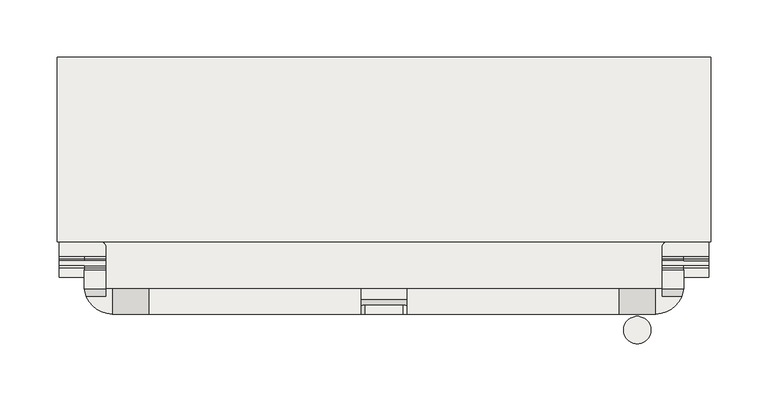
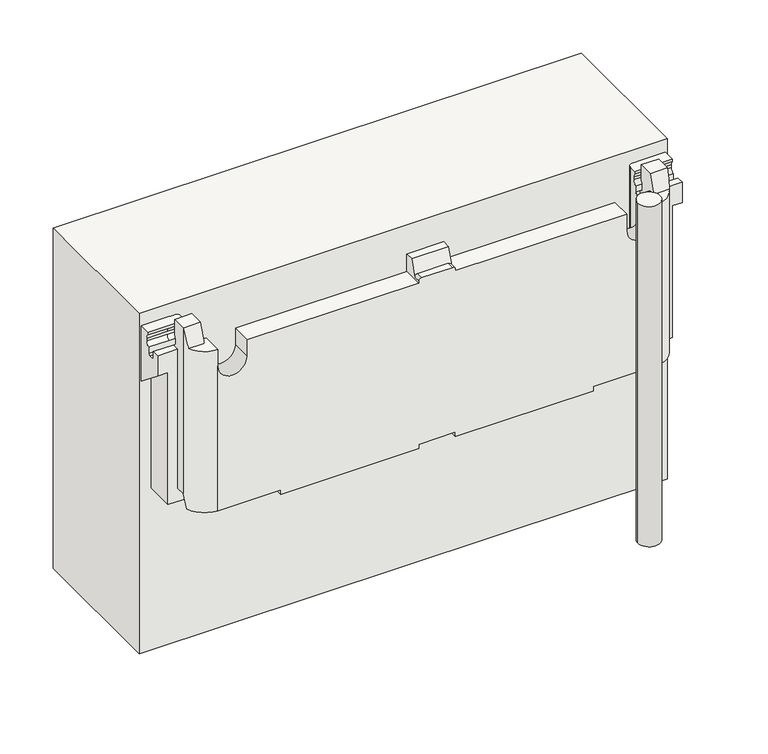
"""IFC4 building model written with IfcOpenShell, lengths in millimetres: covering geometry, panel VP Modulo prova ultima texture : panel VP Modulo prova ultima texture."""

from ifc_helpers import new_model, si_unit, point, frame, frame_2d, origin, origin_with_axes, place, context, project, spatial, polyline, circle_curve, ellipse_curve, trimmed, segment, composite_curve, outline, extrude, source, transform, mapped, element, save
from ifc_brep_helpers import plane_surface, cylinder_surface, revolved_surface, advanced_brep


def covering_16bc3edb(model_context):
    return source(origin(), model_context, "Body", "SolidModel", [
        advanced_brep(
        [(-20.0, 40.503817, 390.3791993), (-20.0, 49.5015434, 390.3791993), (-20.0, 49.5015434, 370.3821425), (-20.0, 27.5015432, 370.3821425), (-20.0, 27.5015432, 372.3821424), (-20.0, 34.5021229, 372.3821424), (20.0, 49.5015434, 390.3791993), (20.0, 40.503817, 390.3791993), (20.0, 34.5021229, 372.3821424), (20.0, 27.5015432, 372.3821424), (20.0, 27.5015432, 370.3821425), (20.0, 49.5015434, 370.3821425), (-17.0, 35.5025688, 375.3821424), (17.0, 35.5025688, 375.3821424), (17.0, 27.5015432, 375.3821424), (-17.0, 27.5015432, 375.3821424), (-262.4808119, 49.5015434, 390.3770182), (-262.4808119, 65.772467, 390.3770182), (-262.4808119, 65.772467, 372.4339741), (-262.4808119, 63.7739273, 367.538463), (-262.4808119, 63.7739273, 364.538463), (-262.4808119, 67.7745502, 359.8422632), (-262.4808119, 59.5, 359.8422632), (-262.4808119, 59.5, 200.3778557), (-262.4808119, 49.5015434, 200.3778557), (262.4808119, 67.7745502, 359.8422632), (262.4808119, 63.7739273, 364.538463), (262.4808119, 63.7739273, 367.538463), (262.4808119, 65.772467, 372.4339741), (262.4808119, 65.772467, 390.3770182), (262.4808119, 49.5015434, 390.3770182), (262.4808119, 49.5015434, 200.3778557), (262.4808119, 59.5, 200.3778557), (262.4808119, 59.5, 359.8422632), (205.7808119, 27.5015432, 370.3821425), (205.7808119, 49.5015434, 370.3821425), (243.7808119, 42.6167555, 370.3821425), (243.7808119, 49.5015434, 370.3821425), (237.7808119, 49.5015434, 370.3821425), (237.7808119, 27.5015432, 370.3821425), (260.6550436, 42.6167555, 370.3821425), (-237.7808119, 27.5015432, 370.3821425), (-237.7808119, 49.5015434, 370.3821425), (-243.7808119, 49.5015434, 370.3821425), (-243.7808119, 42.6167555, 370.3821425), (-260.6550436, 42.6167555, 370.3821425), (-205.7808119, 49.5015434, 370.3821425), (-205.7808119, 27.5015432, 370.3821425), (-262.4808119, 109.8415131, 207.378532), (262.4808119, 109.8415131, 207.378532), (262.4808119, 141.2113001, 235.0190246), (-262.4808119, 141.2113001, 235.0190246), (-262.4808119, 147.3447094, 241.4812522), (262.4808119, 147.3447094, 241.4812522), (262.4808119, 184.4941844, 288.3639074), (-262.4808119, 184.4941844, 288.3639074), (262.4808119, 184.4941844, 315.3627622), (-262.4808119, 184.4941844, 315.3627622), (284.4808119, 184.4914281, 315.3627622), (284.4808119, 202.488872, 315.3627622), (-284.4808119, 202.488872, 315.3627622), (-284.4808119, 184.4914281, 315.3627622), (-284.4808119, 202.488872, 275.6494871), (284.4808119, 202.488872, 275.6494871), (262.4808119, 193.4423608, 234.2709563), (-262.4808119, 193.4423608, 234.2709563), (-284.4808119, 193.4423608, 234.2709563), (284.4808119, 193.4423608, 234.2709563), (262.4808119, 190.281945, 233.1432662), (-262.4808119, 190.281945, 233.1432662), (284.4808119, 190.281945, 233.1432662), (284.4808119, 59.5, 336.7739206), (273.4808119, 59.5, 336.7739206), (273.4808119, 180.2456216, 241.0959753), (262.4808119, 180.2456216, 241.0959753), (-262.4808119, 180.2456216, 241.0959753), (-273.4808119, 180.2456216, 241.0959753), (-273.4808119, 59.5, 336.7739206), (-284.4808119, 59.5, 336.7739206), (-284.4808119, 190.281945, 233.1432662), (262.4808119, 174.5899002, 240.4408933), (-262.4808119, 174.5899002, 240.4408933), (273.4808119, 174.5899002, 240.4408933), (273.4808119, 160.5878776, 222.7703691), (-273.4808119, 160.5878776, 222.7703691), (-273.4808119, 174.5899002, 240.4408933), (-273.4808119, 118.1414154, 185.3700156), (273.4808119, 118.1414154, 185.3700156), (237.7808119, 118.1414154, 185.3700156), (197.7808119, 118.1414154, 185.3700156), (20.0, 118.1414154, 185.3700156), (-20.0, 118.1414154, 185.3700156), (-197.7808119, 118.1414154, 185.3700156), (-237.7808119, 118.1414154, 185.3700156), (-273.4808119, 59.5, 185.3821441), (-237.7808119, 78.1414154, 185.3821441), (-197.7808119, 78.1414154, 185.3821441), (-20.0, 78.1414154, 185.3821441), (20.0, 78.1414154, 185.3821441), (197.7808119, 78.1414154, 185.3821441), (237.7808119, 78.1414154, 185.3821441), (273.4808119, 59.5, 185.3821441), (252.4808119, 59.5, 185.3821441), (252.4808119, 44.6291413, 185.3821441), (261.4118126, 44.6291413, 185.3821441), (237.7808119, 27.5015432, 185.3821441), (169.4808119, 27.5015432, 185.3821441), (169.4808119, 67.5015432, 185.3821441), (20.0, 67.5015432, 185.3821441), (20.0, 27.5015432, 185.3821441), (-20.0, 27.5015432, 185.3821441), (-20.0, 67.5015432, 185.3821441), (-169.4808119, 67.5015432, 185.3821441), (-169.4808119, 27.5015432, 185.3821441), (-237.7808119, 27.5015432, 185.3821441), (-261.4118126, 44.6291413, 185.3821441), (-252.4808119, 44.6291413, 185.3821441), (-252.4808119, 59.5, 185.3821441), (-205.7808119, 27.5015432, 351.3586119), (-237.7808119, 27.5015432, 351.3586119), (-169.4808119, 27.5015432, 180.3725587), (-20.0, 27.5015432, 180.3725587), (20.0, 27.5015432, 180.3725587), (169.4808119, 27.5015432, 180.3725587), (237.7808119, 27.5015432, 351.3586119), (205.7808119, 27.5015432, 351.3586119), (-237.7808119, 49.5015434, 351.3586119), (-205.7808119, 49.5015434, 351.3586119), (205.7808119, 49.5015434, 351.3586119), (237.7808119, 49.5015434, 351.3586119), (243.7808119, 49.5015434, 207.378532), (-243.7808119, 49.5015434, 207.378532), (-262.4808119, 101.3665857, 207.378532), (-251.8742102, 90.7599839, 207.378532), (-248.1742102, 90.7599839, 207.378532), (-243.7808119, 86.3665857, 207.378532), (243.7808119, 86.3665857, 207.378532), (248.1742102, 90.7599839, 207.378532), (251.8742102, 90.7599839, 207.378532), (262.4808119, 101.3665857, 207.378532), (-284.4808119, 59.5, 359.8422632), (-284.4808119, 67.7745502, 359.8422632), (-284.4808119, 67.7745502, 352.8424284), (-284.4808119, 69.7745502, 350.8424284), (-284.4808119, 74.0001297, 350.8424284), (-284.4808119, 76.0001297, 352.8424284), (-284.4808119, 76.0001297, 359.8422632), (-284.4808119, 80.0007527, 364.538463), (-284.4808119, 80.0007527, 367.538463), (-284.4808119, 78.002213, 372.4339741), (-284.4808119, 78.002213, 375.3856889), (-284.4808119, 115.166168, 375.3856889), (-284.4808119, 118.166168, 372.3856889), (-284.4808119, 118.166168, 356.1051366), (-284.4808119, 119.6447617, 353.5195374), (-262.4808119, 119.6447617, 353.5195374), (-262.4808119, 118.166168, 356.1051366), (-262.4808119, 118.166168, 372.3856889), (-262.4808119, 115.166168, 375.3856889), (-262.4808119, 101.3665857, 375.3856889), (-252.4808119, 59.5, 200.3778557), (-243.7808119, 67.7745502, 359.8422632), (-243.7808119, 67.7745502, 352.8424284), (-262.4808119, 67.7745502, 352.8424284), (-262.4808119, 69.7745502, 350.8424284), (-243.7808119, 69.7745502, 350.8424284), (-243.7808119, 74.0001297, 350.8424284), (-262.4808119, 74.0001297, 350.8424284), (-262.4808119, 76.0001297, 352.8424284), (-243.7808119, 76.0001297, 352.8424284), (-243.7808119, 76.0001297, 359.8422632), (-262.4808119, 76.0001297, 359.8422632), (-262.4808119, 80.0007527, 364.538463), (-243.7808119, 80.0007527, 364.538463), (-243.7808119, 80.0007527, 367.538463), (-262.4808119, 80.0007527, 367.538463), (-262.4808119, 78.002213, 372.4339741), (-243.7808119, 78.002213, 372.4339741), (-243.7808119, 78.002213, 375.3856889), (-243.7808119, 86.3665857, 375.3856889), (-248.1742102, 90.7599839, 375.3856889), (-251.8742102, 90.7599839, 375.3856889), (-243.7808119, 63.7739273, 364.538463), (-243.7808119, 63.7739273, 367.538463), (-243.7808119, 65.772467, 372.4339741), (-243.7808119, 65.772467, 390.3770182), (-243.7808119, 49.5015434, 390.3770182), (284.4808119, 119.6447617, 353.5195374), (284.4808119, 118.166168, 356.1051366), (284.4808119, 118.166168, 372.3856889), (284.4808119, 115.166168, 375.3856889), (284.4808119, 78.002213, 375.3856889), (284.4808119, 78.002213, 372.4339741), (284.4808119, 80.0007527, 367.538463), (284.4808119, 80.0007527, 364.538463), (284.4808119, 76.0001297, 359.8422632), (284.4808119, 76.0001297, 352.8424284), (284.4808119, 74.0001297, 350.8424284), (284.4808119, 69.7745502, 350.8424284), (284.4808119, 67.7745502, 352.8424284), (284.4808119, 67.7745502, 359.8422632), (284.4808119, 59.5, 359.8422632), (262.4808119, 115.166168, 375.3856889), (262.4808119, 118.166168, 372.3856889), (262.4808119, 118.166168, 356.1051366), (262.4808119, 119.6447617, 353.5195374), (262.4808119, 101.3665857, 375.3856889), (252.4808119, 59.5, 200.3778557), (262.4808119, 69.7745502, 350.8424284), (262.4808119, 67.7745502, 352.8424284), (262.4808119, 76.0001297, 352.8424284), (262.4808119, 74.0001297, 350.8424284), (262.4808119, 80.0007527, 364.538463), (262.4808119, 76.0001297, 359.8422632), (262.4808119, 78.002213, 372.4339741), (262.4808119, 80.0007527, 367.538463), (243.7808119, 49.5015434, 390.3770182), (243.7808119, 65.772467, 390.3770182), (243.7808119, 65.772467, 372.4339741), (243.7808119, 63.7739273, 367.538463), (243.7808119, 63.7739273, 364.538463), (243.7808119, 67.7745502, 359.8422632), (243.7808119, 67.7745502, 352.8424284), (243.7808119, 69.7745502, 350.8424284), (243.7808119, 74.0001297, 350.8424284), (243.7808119, 76.0001297, 352.8424284), (243.7808119, 76.0001297, 359.8422632), (243.7808119, 80.0007527, 364.538463), (243.7808119, 80.0007527, 367.538463), (243.7808119, 78.002213, 372.4339741), (243.7808119, 78.002213, 375.3856889), (243.7808119, 86.3665857, 375.3856889), (251.8742102, 90.7599839, 375.3856889), (248.1742102, 90.7599839, 375.3856889), (237.7808119, 78.1414154, 180.3725587), (197.7808119, 78.1414154, 180.3725587), (197.7808119, 118.1414154, 180.3725587), (237.7808119, 118.1414154, 180.3725587), (-20.0, 78.1414154, 180.3725587), (-20.0, 118.1414154, 180.3725587), (20.0, 118.1414154, 180.3725587), (20.0, 78.1414154, 180.3725587), (-237.7808119, 78.1414154, 180.3725587), (-237.7808119, 118.1414154, 180.3725587), (-197.7808119, 118.1414154, 180.3725587), (-197.7808119, 78.1414154, 180.3725587), (20.0, 67.5015432, 180.3725587), (169.4808119, 67.5015432, 180.3725587), (-20.0, 67.5015432, 180.3725587), (-169.4808119, 67.5015432, 180.3725587), (-252.4808119, 49.5015434, 200.3778557), (252.4808119, 49.5015434, 200.3778557)],
        [
            (0, 1),
            (1, 2),
            (2, 3),
            (3, 4),
            (4, 5),
            (5, 0),
            (6, 7),
            (7, 8),
            (8, 9),
            (9, 10),
            (10, 11),
            (11, 6),
            (0, 7),
            (6, 1),
            (5, 12, ellipse_curve(frame((-17.0, 34.5021229, 372.3821424), z_axis=(0.0, 0.9486409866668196, -0.31635467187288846), x_axis=(0.0, 0.31635467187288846, 0.9486409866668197)), 3.1624187, 3.0)),
            (12, 13),
            (13, 8, ellipse_curve(frame((17.0, 34.5021229, 372.3821424), z_axis=(0.0, 0.9486409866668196, -0.31635467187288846), x_axis=(0.0, 0.31635467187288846, 0.9486409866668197)), 3.1624187, 3.0)),
            (14, 9, circle_curve(frame((17.0, 27.5015432, 372.3821424), z_axis=(0.0, 1.0, 0.0), x_axis=(-1.0, 0.0, 0.0)), 3.0)),
            (13, 14),
            (4, 15, circle_curve(frame((-17.0, 27.5015432, 372.3821424), z_axis=(0.0, 1.0, 0.0), x_axis=(-1.0, 0.0, 0.0)), 3.0)),
            (15, 12),
            (15, 14),
            (16, 17),
            (17, 18),
            (18, 19, circle_curve(frame((-262.4808119, 70.7690822, 367.538463), z_axis=(1.0, 0.0, 0.0), x_axis=(0.0, -1.0, 0.0)), 6.9951549)),
            (19, 20),
            (20, 21, circle_curve(frame((-262.4808119, 68.5305961, 364.538463), z_axis=(1.0, 0.0, 0.0), x_axis=(0.0, -1.0, 0.0)), 4.7566689)),
            (21, 22),
            (22, 23),
            (23, 24),
            (24, 16),
            (25, 26, circle_curve(frame((262.4808119, 68.5305961, 364.538463), z_axis=(-1.0, 0.0, 0.0), x_axis=(0.0, -1.0, 0.0)), 4.7566689)),
            (26, 27),
            (27, 28, circle_curve(frame((262.4808119, 70.7690822, 367.538463), z_axis=(-1.0, 0.0, 0.0), x_axis=(0.0, -1.0, 0.0)), 6.9951549)),
            (28, 29),
            (29, 30),
            (30, 31),
            (31, 32),
            (32, 33),
            (33, 25),
            (10, 34),
            (34, 35),
            (35, 11),
            (36, 37),
            (37, 38),
            (38, 39),
            (39, 40, circle_curve(frame((237.7808119, 52.367225, 370.3821425), z_axis=(0.0, 0.0, 1.0), x_axis=(1.0, 0.0, 0.0)), 24.8656818)),
            (40, 36),
            (41, 42),
            (42, 43),
            (43, 44),
            (44, 45),
            (45, 41, circle_curve(frame((-237.7808119, 52.367225, 370.3821425), z_axis=(0.0, 0.0, 1.0), x_axis=(-1.0, 0.0, 0.0)), 24.8656818)),
            (46, 47),
            (47, 3),
            (2, 46),
            (48, 49),
            (49, 50),
            (50, 51),
            (51, 48),
            (52, 53),
            (53, 54),
            (54, 55),
            (55, 52),
            (54, 56),
            (56, 57),
            (57, 55),
            (56, 58),
            (58, 59),
            (59, 60),
            (60, 61),
            (61, 57),
            (62, 60),
            (59, 63),
            (63, 62),
            (64, 65),
            (65, 66),
            (66, 62),
            (63, 67),
            (67, 64),
            (64, 68, circle_curve(frame((262.4808119, 191.5102381, 234.6933727), z_axis=(-1.0, 0.0, 0.0), x_axis=(0.0, -1.0, 0.0)), 1.9777598)),
            (68, 69),
            (69, 65, circle_curve(frame((-262.4808119, 191.5102381, 234.6933727), z_axis=(1.0, 0.0, 0.0), x_axis=(0.0, -1.0, 0.0)), 1.9777598)),
            (68, 70),
            (70, 71),
            (71, 72),
            (72, 73),
            (73, 74),
            (74, 75),
            (75, 76),
            (76, 77),
            (77, 78),
            (78, 79),
            (79, 69),
            (74, 80, circle_curve(frame((262.4808119, 177.7453022, 237.9405708), z_axis=(1.0, 0.0, 0.0), x_axis=(0.0, -1.0, 0.0)), 4.0259377)),
            (80, 81),
            (81, 75, circle_curve(frame((-262.4808119, 177.7453022, 237.9405708), z_axis=(-1.0, 0.0, 0.0), x_axis=(0.0, -1.0, 0.0)), 4.0259377)),
            (80, 82),
            (82, 83),
            (83, 84),
            (84, 85),
            (85, 81),
            (86, 84),
            (83, 87),
            (87, 88),
            (88, 89),
            (89, 90),
            (90, 91),
            (91, 92),
            (92, 93),
            (93, 86),
            (50, 53, circle_curve(frame((262.4808119, 108.1562691, 272.5338873), z_axis=(1.0, 0.0, 0.0), x_axis=(0.0, -1.0, 0.0)), 50.0)),
            (52, 51, circle_curve(frame((-262.4808119, 108.1562691, 272.5338873), z_axis=(-1.0, 0.0, 0.0), x_axis=(0.0, -1.0, 0.0)), 50.0)),
            (94, 86),
            (93, 95),
            (95, 96),
            (96, 92),
            (91, 97),
            (97, 98),
            (98, 90),
            (89, 99),
            (99, 100),
            (100, 88),
            (87, 101),
            (101, 102),
            (102, 103),
            (103, 104),
            (104, 105, circle_curve(frame((237.7808119, 52.367225, 185.3821441), z_axis=(0.0, 0.0, -1.0), x_axis=(1.0, 0.0, 0.0)), 24.8656818)),
            (105, 106),
            (106, 107),
            (107, 108),
            (108, 109),
            (109, 110),
            (110, 111),
            (111, 112),
            (112, 113),
            (113, 114),
            (114, 115, circle_curve(frame((-237.7808119, 52.367225, 185.3821441), z_axis=(0.0, 0.0, -1.0), x_axis=(-1.0, 0.0, 0.0)), 24.8656818)),
            (115, 116),
            (116, 117),
            (117, 94),
            (47, 118),
            (118, 119, circle_curve(frame((-221.7808119, 27.5015432, 351.3586119), z_axis=(0.0, 1.0, 0.0), x_axis=(-1.0, 0.0, 0.0)), 16.0)),
            (119, 114),
            (113, 120),
            (120, 121),
            (121, 110),
            (109, 122),
            (122, 123),
            (123, 106),
            (105, 124),
            (124, 125, circle_curve(frame((221.7808119, 27.5015432, 351.3586119), z_axis=(0.0, 1.0, 0.0), x_axis=(1.0, 0.0, 0.0)), 16.0)),
            (125, 34),
            (42, 126),
            (126, 127, circle_curve(frame((-221.7808119, 49.5015434, 351.3586119), z_axis=(0.0, -1.0, 0.0), x_axis=(-1.0, 0.0, 0.0)), 16.0)),
            (127, 46),
            (35, 128),
            (128, 129, circle_curve(frame((221.7808119, 49.5015434, 351.3586119), z_axis=(0.0, -1.0, 0.0), x_axis=(1.0, 0.0, 0.0)), 16.0)),
            (129, 38),
            (37, 130),
            (130, 131),
            (131, 43),
            (48, 132),
            (132, 133, circle_curve(frame((-251.8742102, 101.3665857, 207.378532), z_axis=(0.0, 0.0, 1.0), x_axis=(-1.0, 0.0, 0.0)), 10.6066017)),
            (133, 134),
            (134, 135, circle_curve(frame((-248.1742102, 86.3665857, 207.378532), z_axis=(0.0, 0.0, -1.0), x_axis=(-1.0, 0.0, 0.0)), 4.3933983)),
            (135, 131),
            (130, 136),
            (136, 137, circle_curve(frame((248.1742102, 86.3665857, 207.378532), z_axis=(0.0, 0.0, -1.0), x_axis=(1.0, 0.0, 0.0)), 4.3933983)),
            (137, 138),
            (138, 139, circle_curve(frame((251.8742102, 101.3665857, 207.378532), z_axis=(0.0, 0.0, 1.0), x_axis=(1.0, 0.0, 0.0)), 10.6066017)),
            (139, 49),
            (66, 79, circle_curve(frame((-284.4808119, 191.5102381, 234.6933727), z_axis=(-1.0, 0.0, 0.0), x_axis=(0.0, -1.0, 0.0)), 1.9777598)),
            (78, 140),
            (140, 141),
            (141, 142),
            (142, 143, circle_curve(frame((-284.4808119, 69.7745502, 352.8424284), z_axis=(1.0, 0.0, 0.0), x_axis=(0.0, -1.0, 0.0)), 2.0)),
            (143, 144),
            (144, 145, circle_curve(frame((-284.4808119, 74.0001297, 352.8424284), z_axis=(1.0, 0.0, 0.0), x_axis=(0.0, -1.0, 0.0)), 2.0)),
            (145, 146),
            (146, 147, circle_curve(frame((-284.4808119, 75.2440838, 364.538463), z_axis=(1.0, 0.0, 0.0), x_axis=(0.0, -1.0, 0.0)), 4.7566689)),
            (147, 148),
            (148, 149, circle_curve(frame((-284.4808119, 73.0055977, 367.538463), z_axis=(1.0, 0.0, 0.0), x_axis=(0.0, -1.0, 0.0)), 6.9951549)),
            (149, 150),
            (150, 151),
            (151, 152, circle_curve(frame((-284.4808119, 115.166168, 372.3856889), z_axis=(-1.0, 0.0, 0.0), x_axis=(0.0, -1.0, 0.0)), 3.0)),
            (152, 153),
            (153, 154, circle_curve(frame((-284.4808119, 121.166168, 356.1051366), z_axis=(1.0, 0.0, 0.0), x_axis=(0.0, -1.0, 0.0)), 3.0)),
            (154, 61),
            (57, 155),
            (155, 156, circle_curve(frame((-262.4808119, 121.166168, 356.1051366), z_axis=(-1.0, 0.0, 0.0), x_axis=(0.0, -1.0, 0.0)), 3.0)),
            (156, 157),
            (157, 158, circle_curve(frame((-262.4808119, 115.166168, 372.3856889), z_axis=(1.0, 0.0, 0.0), x_axis=(0.0, -1.0, 0.0)), 3.0)),
            (158, 159),
            (159, 132),
            (77, 94),
            (117, 160),
            (160, 23),
            (22, 140),
            (141, 21),
            (21, 161),
            (161, 162),
            (162, 163),
            (163, 142),
            (163, 164, circle_curve(frame((-262.4808119, 69.7745502, 352.8424284), z_axis=(1.0, 0.0, 0.0), x_axis=(0.0, -1.0, 0.0)), 2.0)),
            (164, 143),
            (164, 165),
            (165, 166),
            (166, 167),
            (167, 144),
            (167, 168, circle_curve(frame((-262.4808119, 74.0001297, 352.8424284), z_axis=(1.0, 0.0, 0.0), x_axis=(0.0, -1.0, 0.0)), 2.0)),
            (168, 145),
            (168, 169),
            (169, 170),
            (170, 171),
            (171, 146),
            (171, 172, circle_curve(frame((-262.4808119, 75.2440838, 364.538463), z_axis=(1.0, 0.0, 0.0), x_axis=(0.0, -1.0, 0.0)), 4.7566689)),
            (172, 147),
            (172, 173),
            (173, 174),
            (174, 175),
            (175, 148),
            (175, 176, circle_curve(frame((-262.4808119, 73.0055977, 367.538463), z_axis=(1.0, 0.0, 0.0), x_axis=(0.0, -1.0, 0.0)), 6.9951549)),
            (176, 149),
            (176, 177),
            (177, 178),
            (178, 150),
            (178, 179),
            (179, 180, circle_curve(frame((-248.1742102, 86.3665857, 375.3856889), z_axis=(0.0, 0.0, 1.0), x_axis=(-1.0, 0.0, 0.0)), 4.3933983)),
            (180, 181),
            (181, 159, circle_curve(frame((-251.8742102, 101.3665857, 375.3856889), z_axis=(0.0, 0.0, -1.0), x_axis=(-1.0, 0.0, 0.0)), 10.6066017)),
            (158, 151),
            (157, 152),
            (156, 153),
            (155, 154),
            (76, 85, circle_curve(frame((-273.4808119, 177.7453022, 237.9405708), z_axis=(1.0, 0.0, 0.0), x_axis=(0.0, -1.0, 0.0)), 4.0259377)),
            (45, 16, ellipse_curve(frame((-237.7808119, 52.367225, 398.6995619), z_axis=(0.0, 0.9455185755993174, -0.32556815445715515), x_axis=(0.0, -0.3255681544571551, -0.9455185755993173)), 76.3762716, 24.8656818)),
            (24, 115, ellipse_curve(frame((-237.7808119, 52.367225, 209.1975168), z_axis=(0.0, -0.9510565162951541, 0.3090169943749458), x_axis=(0.0, -0.30901699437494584, -0.9510565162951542)), 80.4670366, 24.8656818)),
            (119, 41),
            (177, 174, circle_curve(frame((-243.7808119, 73.0055977, 367.538463), z_axis=(-1.0, 0.0, 0.0), x_axis=(0.0, -1.0, 0.0)), 6.9951549)),
            (173, 170, circle_curve(frame((-243.7808119, 75.2440838, 364.538463), z_axis=(-1.0, 0.0, 0.0), x_axis=(0.0, -1.0, 0.0)), 4.7566689)),
            (169, 166, circle_curve(frame((-243.7808119, 74.0001297, 352.8424284), z_axis=(-1.0, 0.0, 0.0), x_axis=(0.0, -1.0, 0.0)), 2.0)),
            (165, 162, circle_curve(frame((-243.7808119, 69.7745502, 352.8424284), z_axis=(-1.0, 0.0, 0.0), x_axis=(0.0, -1.0, 0.0)), 2.0)),
            (161, 182, circle_curve(frame((-243.7808119, 68.5305961, 364.538463), z_axis=(-1.0, 0.0, 0.0), x_axis=(0.0, -1.0, 0.0)), 4.7566689)),
            (182, 183),
            (183, 184, circle_curve(frame((-243.7808119, 70.7690822, 367.538463), z_axis=(-1.0, 0.0, 0.0), x_axis=(0.0, -1.0, 0.0)), 6.9951549)),
            (184, 185),
            (185, 186),
            (186, 44),
            (135, 179),
            (16, 186),
            (185, 17),
            (184, 18),
            (183, 19),
            (182, 20),
            (134, 180),
            (133, 181),
            (39, 124),
            (104, 31, ellipse_curve(frame((237.7808119, 52.367225, 209.1975168), z_axis=(0.0, -0.9510565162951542, 0.3090169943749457), x_axis=(0.0, -0.3090169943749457, -0.9510565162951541)), 80.4670366, 24.8656818)),
            (30, 40, ellipse_curve(frame((237.7808119, 52.367225, 398.6995619), z_axis=(0.0, 0.9455185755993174, -0.3255681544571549), x_axis=(0.0, -0.3255681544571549, -0.9455185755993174)), 76.3762716, 24.8656818)),
            (58, 187),
            (187, 188, circle_curve(frame((284.4808119, 121.166168, 356.1051366), z_axis=(-1.0, 0.0, 0.0), x_axis=(0.0, -1.0, 0.0)), 3.0)),
            (188, 189),
            (189, 190, circle_curve(frame((284.4808119, 115.166168, 372.3856889), z_axis=(1.0, 0.0, 0.0), x_axis=(0.0, -1.0, 0.0)), 3.0)),
            (190, 191),
            (191, 192),
            (192, 193, circle_curve(frame((284.4808119, 73.0055977, 367.538463), z_axis=(-1.0, 0.0, 0.0), x_axis=(0.0, -1.0, 0.0)), 6.9951549)),
            (193, 194),
            (194, 195, circle_curve(frame((284.4808119, 75.2440838, 364.538463), z_axis=(-1.0, 0.0, 0.0), x_axis=(0.0, -1.0, 0.0)), 4.7566689)),
            (195, 196),
            (196, 197, circle_curve(frame((284.4808119, 74.0001297, 352.8424284), z_axis=(-1.0, 0.0, 0.0), x_axis=(0.0, -1.0, 0.0)), 2.0)),
            (197, 198),
            (198, 199, circle_curve(frame((284.4808119, 69.7745502, 352.8424284), z_axis=(-1.0, 0.0, 0.0), x_axis=(0.0, -1.0, 0.0)), 2.0)),
            (199, 200),
            (200, 201),
            (201, 71),
            (70, 67, circle_curve(frame((284.4808119, 191.5102381, 234.6933727), z_axis=(1.0, 0.0, 0.0), x_axis=(0.0, -1.0, 0.0)), 1.9777598)),
            (202, 203, circle_curve(frame((262.4808119, 115.166168, 372.3856889), z_axis=(-1.0, 0.0, 0.0), x_axis=(0.0, -1.0, 0.0)), 3.0)),
            (203, 204),
            (204, 205, circle_curve(frame((262.4808119, 121.166168, 356.1051366), z_axis=(1.0, 0.0, 0.0), x_axis=(0.0, -1.0, 0.0)), 3.0)),
            (205, 56),
            (139, 206),
            (206, 202),
            (201, 33),
            (32, 207),
            (207, 102),
            (101, 72),
            (198, 208),
            (208, 209, circle_curve(frame((262.4808119, 69.7745502, 352.8424284), z_axis=(-1.0, 0.0, 0.0), x_axis=(0.0, -1.0, 0.0)), 2.0)),
            (209, 199),
            (196, 210),
            (210, 211, circle_curve(frame((262.4808119, 74.0001297, 352.8424284), z_axis=(-1.0, 0.0, 0.0), x_axis=(0.0, -1.0, 0.0)), 2.0)),
            (211, 197),
            (194, 212),
            (212, 213, circle_curve(frame((262.4808119, 75.2440838, 364.538463), z_axis=(-1.0, 0.0, 0.0), x_axis=(0.0, -1.0, 0.0)), 4.7566689)),
            (213, 195),
            (192, 214),
            (214, 215, circle_curve(frame((262.4808119, 73.0055977, 367.538463), z_axis=(-1.0, 0.0, 0.0), x_axis=(0.0, -1.0, 0.0)), 6.9951549)),
            (215, 193),
            (189, 203),
            (202, 190),
            (188, 204),
            (187, 205),
            (200, 25),
            (36, 216),
            (216, 217),
            (217, 218),
            (218, 219, circle_curve(frame((243.7808119, 70.7690822, 367.538463), z_axis=(1.0, 0.0, 0.0), x_axis=(0.0, -1.0, 0.0)), 6.9951549)),
            (219, 220),
            (220, 221, circle_curve(frame((243.7808119, 68.5305961, 364.538463), z_axis=(1.0, 0.0, 0.0), x_axis=(0.0, -1.0, 0.0)), 4.7566689)),
            (221, 222),
            (222, 223, circle_curve(frame((243.7808119, 69.7745502, 352.8424284), z_axis=(1.0, 0.0, 0.0), x_axis=(0.0, -1.0, 0.0)), 2.0)),
            (223, 224),
            (224, 225, circle_curve(frame((243.7808119, 74.0001297, 352.8424284), z_axis=(1.0, 0.0, 0.0), x_axis=(0.0, -1.0, 0.0)), 2.0)),
            (225, 226),
            (226, 227, circle_curve(frame((243.7808119, 75.2440838, 364.538463), z_axis=(1.0, 0.0, 0.0), x_axis=(0.0, -1.0, 0.0)), 4.7566689)),
            (227, 228),
            (228, 229, circle_curve(frame((243.7808119, 73.0055977, 367.538463), z_axis=(1.0, 0.0, 0.0), x_axis=(0.0, -1.0, 0.0)), 6.9951549)),
            (229, 230),
            (230, 231),
            (231, 136),
            (221, 25),
            (209, 222),
            (208, 223),
            (29, 217),
            (216, 30),
            (28, 218),
            (27, 219),
            (26, 220),
            (211, 224),
            (210, 225),
            (213, 226),
            (212, 227),
            (215, 228),
            (214, 229),
            (191, 230),
            (206, 232, circle_curve(frame((251.8742102, 101.3665857, 375.3856889), z_axis=(0.0, 0.0, -1.0), x_axis=(1.0, 0.0, 0.0)), 10.6066017)),
            (232, 233),
            (233, 231, circle_curve(frame((248.1742102, 86.3665857, 375.3856889), z_axis=(0.0, 0.0, 1.0), x_axis=(1.0, 0.0, 0.0)), 4.3933983)),
            (233, 137),
            (232, 138),
            (119, 126),
            (127, 118),
            (129, 124),
            (125, 128),
            (82, 73, circle_curve(frame((273.4808119, 177.7453022, 237.9405708), z_axis=(-1.0, 0.0, 0.0), x_axis=(0.0, -1.0, 0.0)), 4.0259377)),
            (234, 235),
            (235, 236),
            (236, 237),
            (237, 234),
            (234, 100),
            (99, 235),
            (89, 236),
            (88, 237),
            (238, 239),
            (239, 240),
            (240, 241),
            (241, 238),
            (241, 98),
            (97, 238),
            (240, 90),
            (239, 91),
            (242, 243),
            (243, 244),
            (244, 245),
            (245, 242),
            (245, 96),
            (95, 242),
            (244, 92),
            (243, 93),
            (246, 247),
            (247, 123),
            (122, 246),
            (248, 121),
            (120, 249),
            (249, 248),
            (108, 246),
            (247, 107),
            (249, 112),
            (111, 248),
            (250, 160),
            (116, 250),
            (250, 24),
            (251, 103),
            (207, 251),
            (31, 251),
        ],
        [
            plane_surface(frame((-20.0, 49.5042184, 390.3791993), z_axis=(-1.0, 0.0, 0.0), x_axis=(0.0, 1.0, 0.0))),
            plane_surface(frame((20.0, 49.5042184, 390.3791993), z_axis=(1.0, 0.0, 0.0), x_axis=(0.0, -1.0, 0.0))),
            plane_surface(frame((-20.0, 40.503817, 390.3791993), z_axis=(0.0, 0.0, 1.0), x_axis=(1.0, 0.0, 0.0))),
            plane_surface(frame((-20.0, 33.835159, 370.3821425), z_axis=(0.0, -0.9486409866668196, 0.31635467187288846), x_axis=(1.0, 0.0, 0.0))),
            cylinder_surface(frame((17.0, 27.5015432, 372.3821424), z_axis=(0.0, 1.0, 0.0), x_axis=(-1.0, 0.0, 0.0)), 3.0),
            cylinder_surface(frame((-17.0, 27.5015432, 372.3821424), z_axis=(0.0, 1.0, 0.0), x_axis=(-1.0, 0.0, 0.0)), 3.0),
            plane_surface(frame((-17.0, 49.501543, 375.3821424), z_axis=(0.0, 0.0, 1.0), x_axis=(0.0, -1.0, 0.0))),
            plane_surface(frame((-262.4808119, 118.1414154, 185.3700156), z_axis=(-1.0, 0.0, 0.0), x_axis=(0.0, -0.7502972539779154, -0.6611006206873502))),
            plane_surface(frame((262.4808119, 118.1414154, 185.3700156), z_axis=(1.0, 0.0, 0.0), x_axis=(0.0, 0.7502972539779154, 0.6611006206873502))),
            plane_surface(frame((-262.4808119, 27.5015432, 370.3821425), z_axis=(0.0, 0.0, 1.0), x_axis=(1.0, 0.0, 0.0))),
            plane_surface(frame((-262.4808119, 109.8415131, 207.378532), z_axis=(0.0, -0.6611006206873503, 0.7502972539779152), x_axis=(1.0, 0.0, 0.0))),
            plane_surface(frame((-262.4808119, 147.3447094, 241.4812522), z_axis=(0.0, -0.7837688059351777, 0.6210527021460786), x_axis=(1.0, 0.0, 0.0))),
            plane_surface(frame((-262.4808119, 184.4941844, 288.3639074), z_axis=(0.0, -1.0, 0.0), x_axis=(1.0, 0.0, 0.0))),
            plane_surface(frame((-262.4808119, 184.4941844, 315.3627622), z_axis=(0.0, 0.0, 1.0), x_axis=(1.0, 0.0, 0.0))),
            plane_surface(frame((-262.4808119, 202.488872, 315.3627622), z_axis=(0.0, 1.0, 0.0), x_axis=(1.0, 0.0, 0.0))),
            plane_surface(frame((-262.4808119, 202.488872, 275.6494871), z_axis=(0.0, 0.9769248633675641, -0.21358326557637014), x_axis=(1.0, 0.0, 0.0))),
            cylinder_surface(frame((262.4808119, 191.5102381, 234.6933727), z_axis=(-1.0, 0.0, 0.0), x_axis=(0.0, -1.0, 0.0)), 1.9777598),
            plane_surface(frame((-262.4808119, 190.281945, 233.1432662), z_axis=(0.0, -0.6210526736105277, -0.7837688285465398), x_axis=(1.0, 0.0, 0.0))),
            revolved_surface(polyline([(262.4808119, 173.71936449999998, 237.9405708), (-262.4808119, 173.71936449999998, 237.9405708)]), (262.4808119, 177.7453022, 237.9405708), (1.0, 0.0, 0.0)),
            plane_surface(frame((-262.4808119, 174.5899002, 240.4408933), z_axis=(0.0, 0.7837682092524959, -0.6210534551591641), x_axis=(1.0, 0.0, 0.0))),
            plane_surface(frame((-262.4808119, 160.5878776, 222.7703691), z_axis=(0.0, 0.6611006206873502, -0.7502972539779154), x_axis=(1.0, 0.0, 0.0))),
            revolved_surface(polyline([(262.4808119, 58.1562691, 272.5338873), (-262.4808119, 58.1562691, 272.5338873)]), (262.4808119, 108.1562691, 272.5338873), (1.0, 0.0, 0.0)),
            plane_surface(frame((-262.4808119, 118.1551803, 185.3821441), z_axis=(0.0, 0.0, -1.0), x_axis=(1.0, 0.0, 0.0))),
            plane_surface(frame((-262.4808119, 27.5015432, 185.3821441), z_axis=(0.0, -1.0, 0.0), x_axis=(1.0, 0.0, 0.0))),
            plane_surface(frame((-262.4808119, 49.5015434, 370.3821425), z_axis=(0.0, 1.0, 0.0), x_axis=(1.0, 0.0, 0.0))),
            plane_surface(frame((-262.4808119, 49.5015434, 207.378532), z_axis=(0.0, 0.0, 1.0), x_axis=(1.0, 0.0, 0.0))),
            plane_surface(frame((-284.4808119, 202.488872, 275.6494871), z_axis=(-1.0000000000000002, 0.0, 0.0), x_axis=(0.0, -0.21358326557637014, -0.9769248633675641))),
            plane_surface(frame((-262.4808119, 202.488872, 275.6494871), z_axis=(1.0000000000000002, 0.0, 0.0), x_axis=(0.0, 0.21358326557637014, 0.9769248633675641))),
            cylinder_surface(frame((-262.4808119, 191.5102381, 234.6933727), z_axis=(-1.0, 0.0, 0.0), x_axis=(0.0, -1.0, 0.0)), 1.9777598),
            plane_surface(frame((-284.4808119, 59.5, 336.7739206), z_axis=(0.0, -1.0, 0.0), x_axis=(1.0, 0.0, 0.0))),
            plane_surface(frame((-284.4808119, 67.7745502, 359.8422632), z_axis=(0.0, 1.0, 0.0), x_axis=(1.0, 0.0, 0.0))),
            revolved_surface(polyline([(-262.4808119, 67.7745502, 352.8424284), (-284.4808119, 67.7745502, 352.8424284)]), (-262.4808119, 69.7745502, 352.8424284), (1.0, 0.0, 0.0)),
            plane_surface(frame((-284.4808119, 69.7745502, 350.8424284), z_axis=(0.0, 0.0, 1.0), x_axis=(1.0, 0.0, 0.0))),
            revolved_surface(polyline([(-262.4808119, 72.0001297, 352.8424284), (-284.4808119, 72.0001297, 352.8424284)]), (-262.4808119, 74.0001297, 352.8424284), (1.0, 0.0, 0.0)),
            plane_surface(frame((-284.4808119, 76.0001297, 352.8424284), z_axis=(0.0, -1.0, 0.0), x_axis=(1.0, 0.0, 0.0))),
            revolved_surface(polyline([(-262.4808119, 70.4874149, 364.538463), (-284.4808119, 70.4874149, 364.538463)]), (-262.4808119, 75.2440838, 364.538463), (1.0, 0.0, 0.0)),
            plane_surface(frame((-284.4808119, 80.0007527, 364.538463), z_axis=(0.0, -1.0, 0.0), x_axis=(1.0, 0.0, 0.0))),
            revolved_surface(polyline([(-262.4808119, 66.01044279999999, 367.538463), (-284.4808119, 66.01044279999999, 367.538463)]), (-262.4808119, 73.0055977, 367.538463), (1.0, 0.0, 0.0)),
            plane_surface(frame((-284.4808119, 78.002213, 372.4339741), z_axis=(0.0, -1.0, 0.0), x_axis=(1.0, 0.0, 0.0))),
            plane_surface(frame((-284.4808119, 78.002213, 375.3856889), z_axis=(0.0, 0.0, 1.0), x_axis=(1.0, 0.0, 0.0))),
            cylinder_surface(frame((-262.4808119, 115.166168, 372.3856889), z_axis=(-1.0, 0.0, 0.0), x_axis=(0.0, -1.0, 0.0)), 3.0),
            plane_surface(frame((-284.4808119, 118.166168, 372.3856889), z_axis=(0.0, 1.0, 0.0), x_axis=(1.0, 0.0, 0.0))),
            revolved_surface(polyline([(-262.4808119, 118.166168, 356.1051366), (-284.4808119, 118.166168, 356.1051366)]), (-262.4808119, 121.166168, 356.1051366), (1.0, 0.0, 0.0)),
            plane_surface(frame((-284.4808119, 119.6447617, 353.5195374), z_axis=(0.0, 0.5071354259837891, 0.8618663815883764), x_axis=(1.0, 0.0, 0.0))),
            plane_surface(frame((-284.4808119, 59.5, 359.8422632), z_axis=(0.0, 0.0, 1.0), x_axis=(1.0, 0.0, 0.0))),
            plane_surface(frame((-273.4808119, 174.5899002, 240.4408933), z_axis=(-1.0, 0.0, 0.0), x_axis=(0.0, -0.6210534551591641, -0.7837682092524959))),
            revolved_surface(polyline([(-262.4808119, 173.71936449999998, 237.9405708), (-273.4808119, 173.71936449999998, 237.9405708)]), (-262.4808119, 177.7453022, 237.9405708), (1.0, 0.0, 0.0)),
            cylinder_surface(frame((-237.7808119, 52.367225, 180.3725587), z_axis=(0.0, 0.0, -1.0), x_axis=(-1.0, 0.0, 0.0)), 24.8656818),
            plane_surface(frame((-243.7808119, 33.2976457, 370.3821425), z_axis=(1.0, 0.0, 0.0), x_axis=(0.0, 1.0, 0.0))),
            revolved_surface(polyline([(-243.7808119, 67.7745502, 352.8424284), (-262.4808119, 67.7745502, 352.8424284)]), (-243.7808119, 69.7745502, 352.8424284), (1.0, 0.0, 0.0)),
            plane_surface(frame((-262.4808119, 49.5015434, 390.3770182), z_axis=(0.0, 0.0, 1.0), x_axis=(1.0, 0.0, 0.0))),
            plane_surface(frame((-262.4808119, 65.772467, 390.3770182), z_axis=(0.0, 1.0, 0.0), x_axis=(1.0, 0.0, 0.0))),
            revolved_surface(polyline([(-243.7808119, 63.7739273, 367.538463), (-262.4808119, 63.7739273, 367.538463)]), (-243.7808119, 70.7690822, 367.538463), (1.0, 0.0, 0.0)),
            plane_surface(frame((-262.4808119, 63.7739273, 367.538463), z_axis=(0.0, 1.0, 0.0), x_axis=(1.0, 0.0, 0.0))),
            revolved_surface(polyline([(-243.7808119, 63.773927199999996, 364.538463), (-262.4808119, 63.773927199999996, 364.538463)]), (-243.7808119, 68.5305961, 364.538463), (1.0, 0.0, 0.0)),
            revolved_surface(polyline([(-243.7808119, 72.0001297, 352.8424284), (-262.4808119, 72.0001297, 352.8424284)]), (-243.7808119, 74.0001297, 352.8424284), (1.0, 0.0, 0.0)),
            revolved_surface(polyline([(-243.7808119, 70.4874149, 364.538463), (-262.4808119, 70.4874149, 364.538463)]), (-243.7808119, 75.2440838, 364.538463), (1.0, 0.0, 0.0)),
            revolved_surface(polyline([(-243.7808119, 66.01044279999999, 367.538463), (-262.4808119, 66.01044279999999, 367.538463)]), (-243.7808119, 73.0055977, 367.538463), (1.0, 0.0, 0.0)),
            plane_surface(frame((-262.4808119, 42.6167555, 370.3821425), z_axis=(0.0, -0.9455185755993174, 0.32556815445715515), x_axis=(1.0, 0.0, 0.0))),
            cylinder_surface(frame((-248.1742102, 86.3665857, 207.378532), z_axis=(0.0, 0.0, 1.0), x_axis=(-1.0, 0.0, 0.0)), 4.3933983),
            plane_surface(frame((-248.1742102, 90.7599839, 375.3856889), z_axis=(0.0, 1.0, 0.0), x_axis=(0.0, 0.0, -1.0))),
            revolved_surface(polyline([(-262.4808119, 101.3665857, 207.378532), (-262.4808119, 101.3665857, 375.3856889)]), (-251.8742102, 101.3665857, 207.378532), (0.0, 0.0, -1.0)),
            cylinder_surface(frame((237.7808119, 52.367225, 180.3725587), z_axis=(0.0, 0.0, -1.0), x_axis=(1.0, 0.0, 0.0)), 24.8656818),
            plane_surface(frame((284.4808119, 202.488872, 315.3627622), z_axis=(1.0, 0.0, 0.0), x_axis=(0.0, 0.0, 1.0))),
            plane_surface(frame((262.4808119, 202.488872, 315.3627622), z_axis=(-1.0, 0.0, 0.0), x_axis=(0.0, 0.0, -1.0))),
            cylinder_surface(frame((262.4808119, 191.5102381, 234.6933727), z_axis=(1.0, 0.0, 0.0), x_axis=(0.0, -1.0, 0.0)), 1.9777598),
            plane_surface(frame((284.4808119, 59.5, 359.8422632), z_axis=(0.0, -1.0, 0.0), x_axis=(-1.0, 0.0, 0.0))),
            revolved_surface(polyline([(262.4808119, 67.7745502, 352.8424284), (284.4808119, 67.7745502, 352.8424284)]), (262.4808119, 69.7745502, 352.8424284), (-1.0, 0.0, 0.0)),
            revolved_surface(polyline([(262.4808119, 72.0001297, 352.8424284), (284.4808119, 72.0001297, 352.8424284)]), (262.4808119, 74.0001297, 352.8424284), (-1.0, 0.0, 0.0)),
            revolved_surface(polyline([(262.4808119, 70.4874149, 364.538463), (284.4808119, 70.4874149, 364.538463)]), (262.4808119, 75.2440838, 364.538463), (-1.0, 0.0, 0.0)),
            revolved_surface(polyline([(262.4808119, 66.01044279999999, 367.538463), (284.4808119, 66.01044279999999, 367.538463)]), (262.4808119, 73.0055977, 367.538463), (-1.0, 0.0, 0.0)),
            cylinder_surface(frame((262.4808119, 115.166168, 372.3856889), z_axis=(1.0, 0.0, 0.0), x_axis=(0.0, -1.0, 0.0)), 3.0),
            plane_surface(frame((284.4808119, 118.166168, 356.1051366), z_axis=(0.0, 1.0, 0.0), x_axis=(-1.0, 0.0, 0.0))),
            revolved_surface(polyline([(262.4808119, 118.166168, 356.1051366), (284.4808119, 118.166168, 356.1051366)]), (262.4808119, 121.166168, 356.1051366), (-1.0, 0.0, 0.0)),
            plane_surface(frame((284.4808119, 184.4914281, 315.3627622), z_axis=(0.0, 0.5071354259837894, 0.8618663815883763), x_axis=(-1.0, 0.0, 0.0))),
            plane_surface(frame((284.4808119, 67.7745502, 359.8422632), z_axis=(0.0, 0.0, 1.0), x_axis=(-1.0, 0.0, 0.0))),
            plane_surface(frame((243.7808119, 49.5015434, 65.0392806), z_axis=(-1.0, 0.0, 0.0), x_axis=(0.0, 0.0, 1.0))),
            plane_surface(frame((262.4808119, 67.7745502, 352.8424284), z_axis=(0.0, 1.0, 0.0), x_axis=(-1.0, 0.0, 0.0))),
            revolved_surface(polyline([(243.7808119, 67.7745502, 352.8424284), (262.4808119, 67.7745502, 352.8424284)]), (243.7808119, 69.7745502, 352.8424284), (-1.0, 0.0, 0.0)),
            plane_surface(frame((262.4808119, 65.772467, 390.3770182), z_axis=(0.0, 0.0, 1.0), x_axis=(-1.0, 0.0, 0.0))),
            plane_surface(frame((262.4808119, 65.772467, 372.4339741), z_axis=(0.0, 1.0, 0.0), x_axis=(-1.0, 0.0, 0.0))),
            revolved_surface(polyline([(243.7808119, 63.7739273, 367.538463), (262.4808119, 63.7739273, 367.538463)]), (243.7808119, 70.7690822, 367.538463), (-1.0, 0.0, 0.0)),
            plane_surface(frame((262.4808119, 63.7739273, 364.538463), z_axis=(0.0, 1.0, 0.0), x_axis=(-1.0, 0.0, 0.0))),
            revolved_surface(polyline([(243.7808119, 63.773927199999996, 364.538463), (262.4808119, 63.773927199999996, 364.538463)]), (243.7808119, 68.5305961, 364.538463), (-1.0, 0.0, 0.0)),
            plane_surface(frame((262.4808119, 74.0001297, 350.8424284), z_axis=(0.0, 0.0, 1.0), x_axis=(-1.0, 0.0, 0.0))),
            revolved_surface(polyline([(243.7808119, 72.0001297, 352.8424284), (262.4808119, 72.0001297, 352.8424284)]), (243.7808119, 74.0001297, 352.8424284), (-1.0, 0.0, 0.0)),
            plane_surface(frame((262.4808119, 76.0001297, 359.8422632), z_axis=(0.0, -1.0, 0.0), x_axis=(-1.0, 0.0, 0.0))),
            revolved_surface(polyline([(243.7808119, 70.4874149, 364.538463), (262.4808119, 70.4874149, 364.538463)]), (243.7808119, 75.2440838, 364.538463), (-1.0, 0.0, 0.0)),
            plane_surface(frame((262.4808119, 80.0007527, 367.538463), z_axis=(0.0, -1.0, 0.0), x_axis=(-1.0, 0.0, 0.0))),
            revolved_surface(polyline([(243.7808119, 66.01044279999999, 367.538463), (262.4808119, 66.01044279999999, 367.538463)]), (243.7808119, 73.0055977, 367.538463), (-1.0, 0.0, 0.0)),
            plane_surface(frame((262.4808119, 78.002213, 375.3856889), z_axis=(0.0, -1.0, 0.0), x_axis=(-1.0, 0.0, 0.0))),
            plane_surface(frame((262.4808119, 86.3665857, 375.3856889), z_axis=(0.0, 0.0, 1.0), x_axis=(-1.0, 0.0, 0.0))),
            plane_surface(frame((262.4808119, 49.5015434, 390.3770182), z_axis=(0.0, -0.9455185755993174, 0.3255681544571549), x_axis=(-1.0, 0.0, 0.0))),
            cylinder_surface(frame((248.1742102, 86.3665857, 207.378532), z_axis=(0.0, 0.0, 1.0), x_axis=(1.0, 0.0, 0.0)), 4.3933983),
            plane_surface(frame((251.8742102, 90.7599839, 375.3856889), z_axis=(0.0, 1.0, 0.0), x_axis=(0.0, 0.0, -1.0))),
            revolved_surface(polyline([(262.4808119, 101.3665857, 207.378532), (262.4808119, 101.3665857, 375.3856889)]), (251.8742102, 101.3665857, 207.378532), (0.0, 0.0, -1.0)),
            plane_surface(frame((-237.7808119, 76.0001297, 351.3586119), z_axis=(1.0, 0.0, 0.0), x_axis=(0.0, -1.0, 0.0))),
            plane_surface(frame((-205.7808119, 76.0001297, 382.2888218), z_axis=(-1.0, 0.0, 0.0), x_axis=(0.0, -1.0, 0.0))),
            revolved_surface(polyline([(-237.7808119, 49.5015434, 351.3586119), (-237.7808119, 27.5015432, 351.3586119)]), (-221.7808119, -1.8695967, 351.3586119), (0.0, 1.0, 0.0)),
            plane_surface(frame((237.7808119, 76.0001297, 382.2888218), z_axis=(-1.0, 0.0, 0.0), x_axis=(0.0, -1.0, 0.0))),
            plane_surface(frame((205.7808119, 76.0001297, 351.3586119), z_axis=(1.0, 0.0, 0.0), x_axis=(0.0, -1.0, 0.0))),
            revolved_surface(polyline([(237.7808119, 49.5015434, 351.3586119), (237.7808119, 27.5015432, 351.3586119)]), (221.7808119, -1.8695967, 351.3586119), (0.0, 1.0, 0.0)),
            plane_surface(frame((273.4808119, 173.7193644, 237.9405708), z_axis=(1.0, 0.0, 0.0), x_axis=(0.0, 0.0, 1.0))),
            revolved_surface(polyline([(262.4808119, 173.71936449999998, 237.9405708), (273.4808119, 173.71936449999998, 237.9405708)]), (262.4808119, 177.7453022, 237.9405708), (-1.0, 0.0, 0.0)),
            plane_surface(frame((237.7808119, 78.1414154, 180.3725587), z_axis=(0.0, 0.0, -1.0), x_axis=(0.0, -1.0, 0.0))),
            plane_surface(frame((197.7808119, 78.1414154, 185.364065), z_axis=(0.0, -1.0, 0.0), x_axis=(0.0, 0.0, -1.0))),
            plane_surface(frame((197.7808119, 118.1414154, 185.364065), z_axis=(-1.0, 0.0, 0.0), x_axis=(0.0, 0.0, -1.0))),
            plane_surface(frame((237.7808119, 118.1414154, 185.364065), z_axis=(0.0, 1.0, 0.0), x_axis=(0.0, 0.0, -1.0))),
            plane_surface(frame((237.7808119, 78.1414154, 185.364065), z_axis=(1.0, 0.0, 0.0), x_axis=(0.0, 0.0, -1.0))),
            plane_surface(frame((20.0, 78.1414154, 180.3725587), z_axis=(0.0, 0.0, -1.0), x_axis=(-1.0, 0.0, 0.0))),
            plane_surface(frame((-20.0, 78.1414154, 185.364065), z_axis=(0.0, -1.0, 0.0), x_axis=(0.0, 0.0, -1.0))),
            plane_surface(frame((20.0, 78.1414154, 185.364065), z_axis=(1.0, 0.0, 0.0), x_axis=(0.0, 0.0, -1.0))),
            plane_surface(frame((20.0, 118.1414154, 185.364065), z_axis=(0.0, 1.0, 0.0), x_axis=(0.0, 0.0, -1.0))),
            plane_surface(frame((-20.0, 118.1414154, 185.364065), z_axis=(-1.0, 0.0, 0.0), x_axis=(0.0, 0.0, -1.0))),
            plane_surface(frame((-197.7808119, 78.1414154, 180.3725587), z_axis=(0.0, 0.0, -1.0), x_axis=(-1.0, 0.0, 0.0))),
            plane_surface(frame((-237.7808119, 78.1414154, 185.364065), z_axis=(0.0, -1.0, 0.0), x_axis=(0.0, 0.0, -1.0))),
            plane_surface(frame((-197.7808119, 78.1414154, 185.364065), z_axis=(1.0, 0.0, 0.0), x_axis=(0.0, 0.0, -1.0))),
            plane_surface(frame((-197.7808119, 118.1414154, 185.364065), z_axis=(0.0, 1.0, 0.0), x_axis=(0.0, 0.0, -1.0))),
            plane_surface(frame((-237.7808119, 118.1414154, 185.364065), z_axis=(-1.0, 0.0, 0.0), x_axis=(0.0, 0.0, -1.0))),
            plane_surface(frame((20.0, 27.5015432, 180.3725587), z_axis=(0.0, 0.0, -1.0), x_axis=(0.0, 1.0, 0.0))),
            plane_surface(frame((20.0, 67.5015432, 185.364065), z_axis=(-1.0, 0.0, 0.0), x_axis=(0.0, 0.0, -1.0))),
            plane_surface(frame((169.4808119, 27.5015432, 185.364065), z_axis=(1.0, 0.0, 0.0), x_axis=(0.0, 0.0, -1.0))),
            plane_surface(frame((169.4808119, 67.5015432, 185.364065), z_axis=(0.0, 1.0, 0.0), x_axis=(0.0, 0.0, -1.0))),
            plane_surface(frame((-20.0, 67.5015432, 185.364065), z_axis=(0.0, 1.0, 0.0), x_axis=(0.0, 0.0, -1.0))),
            plane_surface(frame((-169.4808119, 67.5015432, 185.364065), z_axis=(-1.0, 0.0, 0.0), x_axis=(0.0, 0.0, -1.0))),
            plane_surface(frame((-20.0, 27.5015432, 185.364065), z_axis=(1.0, 0.0, 0.0), x_axis=(0.0, 0.0, -1.0))),
            plane_surface(frame((-252.4808119, 59.5, 200.3778557), z_axis=(-1.0, 0.0, 0.0), x_axis=(0.0, -1.0, 0.0))),
            plane_surface(frame((-284.4808119, 49.5015434, 200.3778557), z_axis=(0.0, 0.0, -1.0), x_axis=(1.0, 0.0, 0.0))),
            plane_surface(frame((-284.4808119, 44.6291413, 185.3821441), z_axis=(0.0, 0.9510565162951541, -0.3090169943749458), x_axis=(1.0, 0.0, 0.0))),
            plane_surface(frame((252.4808119, 49.5015434, 200.3778557), z_axis=(1.0000000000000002, 0.0, 0.0), x_axis=(0.0, 0.3090169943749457, 0.9510565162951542))),
            plane_surface(frame((284.4808119, 59.5, 200.3778557), z_axis=(0.0, 0.0, -1.0), x_axis=(-1.0, 0.0, 0.0))),
            plane_surface(frame((284.4808119, 49.5015434, 200.3778557), z_axis=(0.0, 0.9510565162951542, -0.3090169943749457), x_axis=(-1.0, 0.0, 0.0))),
        ],
        [
            (0, [[1, 2, 3, 4, 5, 6]]),
            (1, [[7, 8, 9, 10, 11, 12]]),
            (2, [[-1, 13, -7, 14]]),
            (3, [[-13, -6, 15, 16, 17, -8]]),
            (4, [[18, -9, -17, 19]]),
            (5, [[20, 21, -15, -5]]),
            (6, [[22, -19, -16, -21]]),
            (7, [[23, 24, 25, 26, 27, 28, 29, 30, 31]]),
            (8, [[32, 33, 34, 35, 36, 37, 38, 39, 40]]),
            (9, [[-11, 41, 42, 43]]),
            (9, [[44, 45, 46, 47, 48]]),
            (9, [[49, 50, 51, 52, 53]]),
            (9, [[54, 55, -3, 56]]),
            (10, [[57, 58, 59, 60]]),
            (11, [[61, 62, 63, 64]]),
            (12, [[-63, 65, 66, 67]]),
            (13, [[-66, 68, 69, 70, 71, 72]]),
            (14, [[73, -70, 74, 75]]),
            (15, [[76, 77, 78, -75, 79, 80]]),
            (16, [[-76, 81, 82, 83]]),
            (17, [[-82, 84, 85, 86, 87, 88, 89, 90, 91, 92, 93, 94]]),
            (18, [[-89, 95, 96, 97]]),
            (19, [[-96, 98, 99, 100, 101, 102]]),
            (20, [[103, -100, 104, 105, 106, 107, 108, 109, 110, 111]]),
            (21, [[-59, 112, -61, 113]]),
            (22, [[114, -111, 115, 116, 117, -109, 118, 119, 120, -107, 121, 122, 123, -105, 124, 125, 126, 127, 128, 129, 130, 131, 132, 133, 134, 135, 136, 137, 138, 139, 140, 141]]),
            (23, [[142, 143, 144, -137, 145, 146, 147, -133, 148, 149, 150, -129, 151, 152, 153, -41, -10, -18, -22, -20, -4, -55]]),
            (24, [[154, 155, 156, -56, -2, -14, -12, -43, 157, 158, 159, -45, 160, 161, 162, -50]]),
            (25, [[-57, 163, 164, 165, 166, 167, -161, 168, 169, 170, 171, 172]]),
            (26, [[-78, 173, -93, 174, 175, 176, 177, 178, 179, 180, 181, 182, 183, 184, 185, 186, 187, 188, 189, -71, -73]]),
            (27, [[190, 191, 192, 193, 194, 195, -163, -60, -113, -64, -67]]),
            (28, [[-173, -77, -83, -94]]),
            (29, [[-174, -92, 196, -141, 197, 198, -29, 199]]),
            (30, [[-176, 200, 201, 202, 203, 204]]),
            (31, [[-177, -204, 205, 206]]),
            (32, [[-178, -206, 207, 208, 209, 210]]),
            (33, [[-179, -210, 211, 212]]),
            (34, [[-180, -212, 213, 214, 215, 216]]),
            (35, [[-181, -216, 217, 218]]),
            (36, [[-182, -218, 219, 220, 221, 222]]),
            (37, [[-183, -222, 223, 224]]),
            (38, [[-184, -224, 225, 226, 227]]),
            (39, [[-185, -227, 228, 229, 230, 231, -194, 232]]),
            (40, [[-186, -232, -193, 233]]),
            (41, [[-187, -233, -192, 234]]),
            (42, [[-188, -234, -191, 235]]),
            (43, [[-189, -235, -190, -72]]),
            (44, [[-175, -199, -28, -200]]),
            (45, [[-101, -103, -114, -196, -91, 236]]),
            (46, [[-236, -90, -97, -102]]),
            (47, [[-53, 237, -31, 238, -138, -144, 239]]),
            (48, [[-228, -226, 240, -220, 241, -214, 242, -208, 243, -202, 244, 245, 246, 247, 248, 249, -51, -162, -167, 250]]),
            (49, [[-243, -207, -205, -203]]),
            (50, [[-23, 251, -248, 252]]),
            (51, [[-24, -252, -247, 253]]),
            (52, [[-25, -253, -246, 254]]),
            (53, [[-26, -254, -245, 255]]),
            (54, [[-27, -255, -244, -201]]),
            (55, [[-242, -213, -211, -209]]),
            (56, [[-241, -219, -217, -215]]),
            (57, [[-240, -225, -223, -221]]),
            (58, [[-249, -251, -237, -52]]),
            (59, [[-229, -250, -166, 256]]),
            (60, [[-230, -256, -165, 257]]),
            (61, [[-231, -257, -164, -195]]),
            (62, [[-47, 258, -151, -128, 259, -37, 260]]),
            (63, [[-74, -69, 261, 262, 263, 264, 265, 266, 267, 268, 269, 270, 271, 272, 273, 274, 275, 276, -85, 277, -79]]),
            (64, [[278, 279, 280, 281, -65, -62, -112, -58, -172, 282, 283]]),
            (65, [[-277, -84, -81, -80]]),
            (66, [[-276, 284, -39, 285, 286, -125, 287, -86]]),
            (67, [[-273, 288, 289, 290]]),
            (68, [[-271, 291, 292, 293]]),
            (69, [[-269, 294, 295, 296]]),
            (70, [[-267, 297, 298, 299]]),
            (71, [[-264, 300, -278, 301]]),
            (72, [[-263, 302, -279, -300]]),
            (73, [[-262, 303, -280, -302]]),
            (74, [[-261, -68, -281, -303]]),
            (75, [[-275, 304, -40, -284]]),
            (76, [[305, 306, 307, 308, 309, 310, 311, 312, 313, 314, 315, 316, 317, 318, 319, 320, 321, -168, -160, -44]]),
            (77, [[-311, 322, -304, -274, -290, 323]]),
            (78, [[-312, -323, -289, 324]]),
            (79, [[-36, 325, -306, 326]]),
            (80, [[-35, 327, -307, -325]]),
            (81, [[-34, 328, -308, -327]]),
            (82, [[-33, 329, -309, -328]]),
            (83, [[-32, -322, -310, -329]]),
            (84, [[-313, -324, -288, -272, -293, 330]]),
            (85, [[-314, -330, -292, 331]]),
            (86, [[-315, -331, -291, -270, -296, 332]]),
            (87, [[-316, -332, -295, 333]]),
            (88, [[-317, -333, -294, -268, -299, 334]]),
            (89, [[-318, -334, -298, 335]]),
            (90, [[-319, -335, -297, -266, 336]]),
            (91, [[-320, -336, -265, -301, -283, 337, 338, 339]]),
            (92, [[-305, -48, -260, -326]]),
            (93, [[-339, 340, -169, -321]]),
            (94, [[-338, 341, -170, -340]]),
            (95, [[-337, -282, -171, -341]]),
            (96, [[342, -154, -49, -239]]),
            (97, [[343, -142, -54, -156]]),
            (98, [[-342, -143, -343, -155]]),
            (99, [[344, -258, -46, -159]]),
            (100, [[345, -157, -42, -153]]),
            (101, [[-345, -152, -344, -158]]),
            (102, [[346, -87, -287, -124, -104, -99]]),
            (103, [[-346, -98, -95, -88]]),
            (104, [[347, 348, 349, 350]]),
            (105, [[-347, 351, -122, 352]]),
            (106, [[-348, -352, -121, 353]]),
            (107, [[-349, -353, -106, 354]]),
            (108, [[-350, -354, -123, -351]]),
            (109, [[355, 356, 357, 358]]),
            (110, [[-358, 359, -119, 360]]),
            (111, [[-357, 361, -120, -359]]),
            (112, [[-356, 362, -108, -361]]),
            (113, [[-355, -360, -118, -362]]),
            (114, [[363, 364, 365, 366]]),
            (115, [[-366, 367, -116, 368]]),
            (116, [[-365, 369, -117, -367]]),
            (117, [[-364, 370, -110, -369]]),
            (118, [[-363, -368, -115, -370]]),
            (119, [[371, 372, -149, 373]]),
            (119, [[374, -146, 375, 376]]),
            (120, [[-373, -148, -132, 377]]),
            (121, [[-372, 378, -130, -150]]),
            (122, [[-371, -377, -131, -378]]),
            (123, [[-376, 379, -135, 380]]),
            (124, [[-375, -145, -136, -379]]),
            (125, [[-374, -380, -134, -147]]),
            (126, [[381, -197, -140, 382]]),
            (127, [[-381, 383, -30, -198]]),
            (128, [[-382, -139, -238, -383]]),
            (129, [[384, -126, -286, 385]]),
            (130, [[-385, -285, -38, 386]]),
            (131, [[-384, -386, -259, -127]]),
        ],
    ),
        extrude(outline(polyline([(286.2808119, 252.488872), (286.2808119, 90.7599839), (-286.2808119, 90.7599839), (-286.2808119, 252.488872), (286.2808119, 252.488872)])), origin_with_axes(), (0.0, 0.0, 1.0), 390.3770182),
        extrude(outline(composite_curve([segment(trimmed(circle_curve(frame_2d((221.7808119, 13.4534456)), 12.0), [point((209.7808119, 13.4534456))], [point((233.7808119, 13.4534456))], False, "CARTESIAN"), True, "CONTINUOUS"), segment(trimmed(circle_curve(frame_2d((221.7808119, 13.4534456)), 12.0), [point((233.7808119, 13.4534456))], [point((209.7808119, 13.4534456))], False, "CARTESIAN"), True, "CONTINUOUS")], self_intersect=False)), origin_with_axes(), (0.0, 0.0, 1.0), 390.3770182),
    ])


if __name__ == "__main__":
    model = new_model("IFC4")
    model_context = context("Model", 3, world=origin())
    ifc_project = project(units=[si_unit("LENGTHUNIT", "METRE", prefix="MILLI")], contexts=[model_context])
    site = spatial("IfcSite", under=ifc_project)
    building = spatial("IfcBuilding", under=site)
    placement = place(None, origin())
    covering_shape = covering_16bc3edb(model_context)
    element("IfcCovering", 1, ObjectType="panel VP Modulo prova ultima texture : panel VP Modulo prova ultima texture", at=placement, inside=building, context=model_context, shape_type="MappedRepresentation", body=[
        mapped(covering_shape, transform((0.0, 0.0, 0.0), x_axis=(1.0, 0.0, 0.0), y_axis=(0.0, 1.0, 0.0), z_axis=(0.0, 0.0, 1.0))),
    ])
    save(model, "model.ifc")
